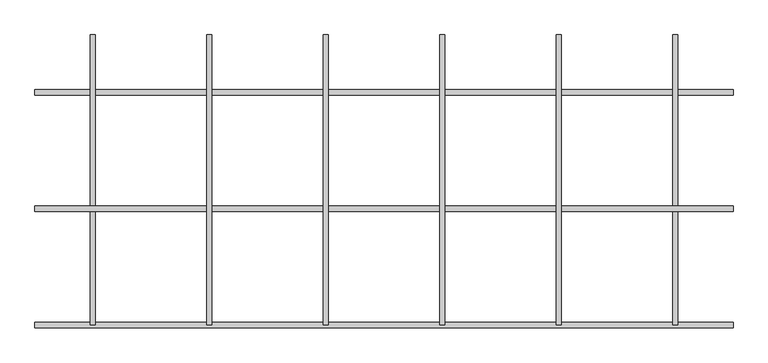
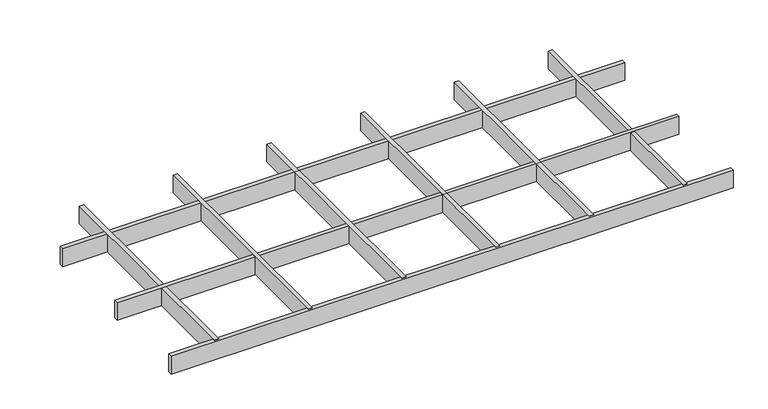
"""IFC4 building model written with IfcOpenShell, lengths in millimetres: proxy geometry, durlum_GEO_panel : durlum_GEO_9_width_cut."""

from ifc_helpers import new_model, si_unit, origin, origin_with_axes, place, context, project, spatial, polyline, outline, extrude, source, transform, mapped, element, save


def generic_models_748fdbd1(model_context):
    return source(origin(), model_context, "Body", "SweptSolid", [
        extrude(outline(polyline([(295.5, 249.5), (304.5, 249.5), (304.5, -249.5), (295.5, -249.5), (295.5, 249.5)])), origin_with_axes(), (0.0, 0.0, 1.0), 40.0),
        extrude(outline(polyline([(95.5, 249.5), (104.5, 249.5), (104.5, -249.5), (95.5, -249.5), (95.5, 249.5)])), origin_with_axes(), (0.0, 0.0, 1.0), 40.0),
        extrude(outline(polyline([(-104.5, 249.5), (-95.5, 249.5), (-95.5, -249.5), (-104.5, -249.5), (-104.5, 249.5)])), origin_with_axes(), (0.0, 0.0, 1.0), 40.0),
        extrude(outline(polyline([(-304.5, 249.5), (-295.5, 249.5), (-295.5, -249.5), (-304.5, -249.5), (-304.5, 249.5)])), origin_with_axes(), (0.0, 0.0, 1.0), 40.0),
        extrude(outline(polyline([(599.5, -45.0), (599.5, -54.0), (-599.5, -54.0), (-599.5, -45.0), (599.5, -45.0)])), origin_with_axes(), (0.0, 0.0, 1.0), 40.0),
        extrude(outline(polyline([(495.5, 249.5), (504.5, 249.5), (504.5, -249.5), (495.5, -249.5), (495.5, 249.5)])), origin_with_axes(), (0.0, 0.0, 1.0), 40.0),
        extrude(outline(polyline([(-504.5, 249.5), (-495.5, 249.5), (-495.5, -249.5), (-504.5, -249.5), (-504.5, 249.5)])), origin_with_axes(), (0.0, 0.0, 1.0), 40.0),
        extrude(outline(polyline([(599.5, -245.0), (599.5, -254.0), (-599.5, -254.0), (-599.5, -245.0), (599.5, -245.0)])), origin_with_axes(), (0.0, 0.0, 1.0), 40.0),
        extrude(outline(polyline([(599.5, 155.0), (599.5, 146.0), (-599.5, 146.0), (-599.5, 155.0), (599.5, 155.0)])), origin_with_axes(), (0.0, 0.0, 1.0), 40.0),
    ])


if __name__ == "__main__":
    model = new_model("IFC4")
    model_context = context("Model", 3, world=origin())
    ifc_project = project(units=[si_unit("LENGTHUNIT", "METRE", prefix="MILLI")], contexts=[model_context])
    site = spatial("IfcSite", under=ifc_project)
    building = spatial("IfcBuilding", under=site)
    placement = place(None, origin())
    generic_models_shape = generic_models_748fdbd1(model_context)
    element("IfcBuildingElementProxy", 1, Name="durlum_GEO_panel : durlum_GEO_9_width_cut", ObjectType="durlum_GEO_panel : durlum_GEO_9_width_cut", at=placement, inside=building, context=model_context, shape_type="MappedRepresentation", body=[
        mapped(generic_models_shape, transform((0.0, 0.0, 0.0), x_axis=(1.0, 0.0, 0.0), y_axis=(0.0, 1.0, 0.0), z_axis=(0.0, 0.0, 1.0))),
    ])
    save(model, "model.ifc")
